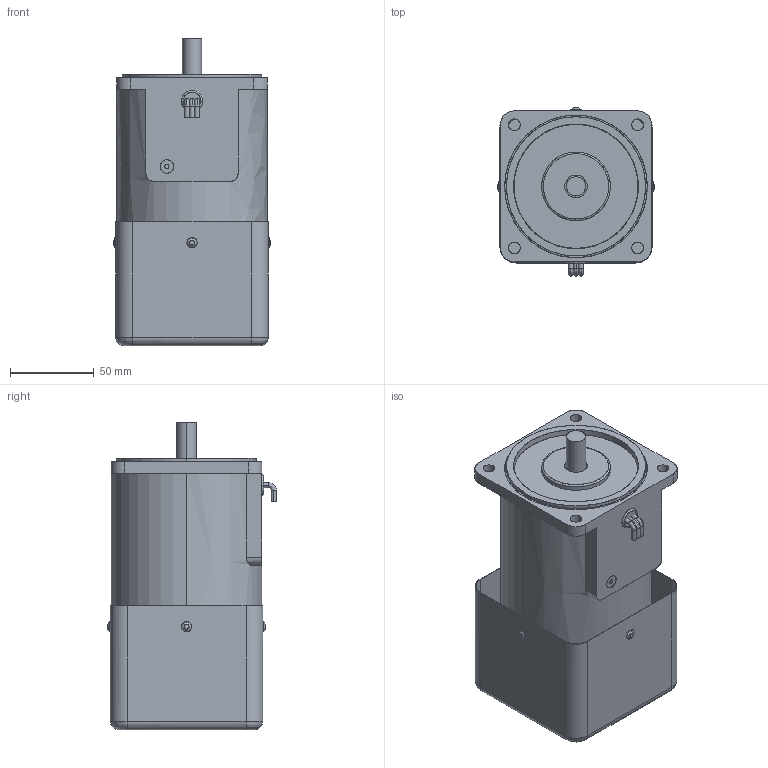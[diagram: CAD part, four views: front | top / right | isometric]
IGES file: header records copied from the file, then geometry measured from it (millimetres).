
Start section: SolidWorks IGES file using analytic representation for surfaces
Global section: file name: \\楷备家烹钦辑滚\data (D)\档搁 枚\权其捞瘤 档搁\6. TORQUE\90\30W\(6-30) 9TDG∴-30F2H.IGS; native system: SolidWorks 2007; preprocessor: SolidWorks 2007; author: user; date: 150623.133042; units: millimetre
Bounding box: 94 x 100.5 x 183.5 mm (x, y, z)
Surface area: 167148.7 mm2 (no closed solid volume)
Topology: 0 solids, 0 shells, 360 faces, 6427 edges, 6427 vertices
Faces by surface type: revolution 230, bspline 130
